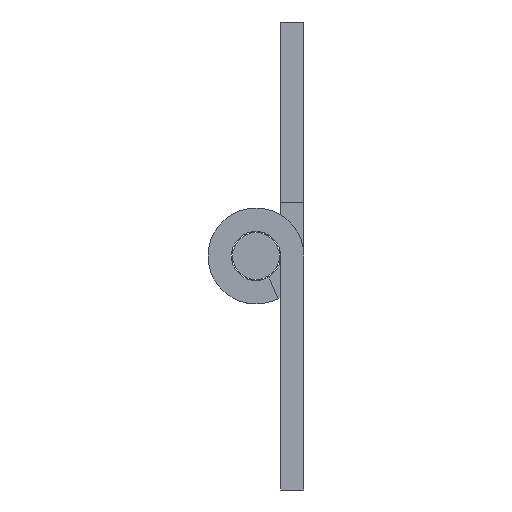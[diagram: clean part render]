
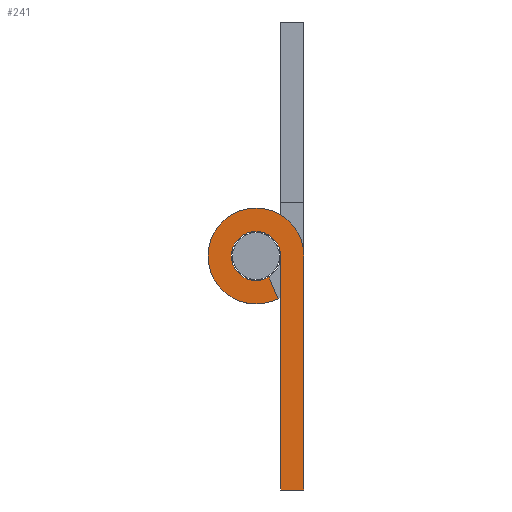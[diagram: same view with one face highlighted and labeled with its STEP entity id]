
A CAD part, left-side view. The second image highlights one B-rep face of the part: STEP entity #241.
In plain terms, the highlighted planar face has unit normal (-1, 0, 0).
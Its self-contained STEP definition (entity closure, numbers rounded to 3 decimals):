
#20 = EDGE_CURVE ( 'NONE', #2705, #1604, #2149, .T. ) ;
#41 = AXIS2_PLACEMENT_3D ( 'NONE', #2084, #2590, #490 ) ;
#103 = AXIS2_PLACEMENT_3D ( 'NONE', #2497, #1303, #1092 ) ;
#177 = DIRECTION ( 'NONE',  ( 0., -0.388, -0.921 ) ) ;
#182 = LINE ( 'NONE', #1297, #206 ) ;
#204 = CIRCLE ( 'NONE', #2934, 6.15 ) ;
#206 = VECTOR ( 'NONE', #2030, 1000. ) ;
#241 = ADVANCED_FACE ( 'NONE', ( #2779 ), #2045, .F. ) ;
#273 = VECTOR ( 'NONE', #177, 1000. ) ;
#303 = CARTESIAN_POINT ( 'NONE',  ( -45., 0., 0. ) ) ;
#307 = DIRECTION ( 'NONE',  ( 0., 0., -1. ) ) ;
#336 = VECTOR ( 'NONE', #2281, 1000. ) ;
#360 = EDGE_CURVE ( 'NONE', #2077, #2192, #1564, .T. ) ;
#436 = DIRECTION ( 'NONE',  ( 0., 0., -1. ) ) ;
#473 = CIRCLE ( 'NONE', #41, 6.15 ) ;
#490 = DIRECTION ( 'NONE',  ( 0., 0., -1. ) ) ;
#497 = ORIENTED_EDGE ( 'NONE', *, *, #20, .F. ) ;
#512 = VERTEX_POINT ( 'NONE', #1281 ) ;
#526 = DIRECTION ( 'NONE',  ( -1., 0., 0. ) ) ;
#549 = EDGE_CURVE ( 'NONE', #2354, #2504, #2627, .T. ) ;
#553 = ORIENTED_EDGE ( 'NONE', *, *, #869, .F. ) ;
#561 = VERTEX_POINT ( 'NONE', #303 ) ;
#564 = EDGE_CURVE ( 'NONE', #512, #570, #2505, .T. ) ;
#567 = AXIS2_PLACEMENT_3D ( 'NONE', #1080, #2002, #2697 ) ;
#570 = VERTEX_POINT ( 'NONE', #2171 ) ;
#585 = AXIS2_PLACEMENT_3D ( 'NONE', #2232, #1727, #1743 ) ;
#638 = EDGE_CURVE ( 'NONE', #1418, #2354, #182, .T. ) ;
#712 = ORIENTED_EDGE ( 'NONE', *, *, #1562, .F. ) ;
#737 = CARTESIAN_POINT ( 'NONE',  ( -45., 3., 0. ) ) ;
#758 = CARTESIAN_POINT ( 'NONE',  ( -45., 6.15, 0. ) ) ;
#869 = EDGE_CURVE ( 'NONE', #2504, #512, #2595, .T. ) ;
#882 = CARTESIAN_POINT ( 'NONE',  ( -45., 4.499, -2.683 ) ) ;
#952 = CARTESIAN_POINT ( 'NONE',  ( -45., 3.018, 0.01 ) ) ;
#1007 = AXIS2_PLACEMENT_3D ( 'NONE', #758, #526, #307 ) ;
#1027 = CARTESIAN_POINT ( 'NONE',  ( -45., 6.15, 0. ) ) ;
#1042 = DIRECTION ( 'NONE',  ( 0., 0.001, 1. ) ) ;
#1080 = CARTESIAN_POINT ( 'NONE',  ( -45., 6.15, 0. ) ) ;
#1084 = CARTESIAN_POINT ( 'NONE',  ( -45., 3., -30. ) ) ;
#1092 = DIRECTION ( 'NONE',  ( 0., 0., -1. ) ) ;
#1140 = ORIENTED_EDGE ( 'NONE', *, *, #1433, .F. ) ;
#1281 = CARTESIAN_POINT ( 'NONE',  ( -45., 3., 0. ) ) ;
#1297 = CARTESIAN_POINT ( 'NONE',  ( -45., 0., -30. ) ) ;
#1303 = DIRECTION ( 'NONE',  ( 1., 0., 0. ) ) ;
#1323 = EDGE_CURVE ( 'NONE', #2192, #561, #473, .T. ) ;
#1336 = LINE ( 'NONE', #2782, #336 ) ;
#1360 = CARTESIAN_POINT ( 'NONE',  ( -45., 3.327, -5.464 ) ) ;
#1368 = ORIENTED_EDGE ( 'NONE', *, *, #2610, .F. ) ;
#1380 = CARTESIAN_POINT ( 'NONE',  ( -45., 6.15, -6.15 ) ) ;
#1418 = VERTEX_POINT ( 'NONE', #2907 ) ;
#1422 = DIRECTION ( 'NONE',  ( 0., -0.879, -0.477 ) ) ;
#1433 = EDGE_CURVE ( 'NONE', #570, #2705, #1751, .T. ) ;
#1530 = ORIENTED_EDGE ( 'NONE', *, *, #638, .F. ) ;
#1562 = EDGE_CURVE ( 'NONE', #561, #1418, #1336, .T. ) ;
#1564 = CIRCLE ( 'NONE', #2642, 6.15 ) ;
#1590 = DIRECTION ( 'NONE',  ( 1., 0., 0. ) ) ;
#1604 = VERTEX_POINT ( 'NONE', #882 ) ;
#1608 = CARTESIAN_POINT ( 'NONE',  ( -45., 6.15, -3.15 ) ) ;
#1677 = EDGE_LOOP ( 'NONE', ( #1368, #2956, #497, #1140, #1861, #553, #1960, #1530, #712, #2966, #2766 ) ) ;
#1719 = VECTOR ( 'NONE', #1042, 1000. ) ;
#1727 = DIRECTION ( 'NONE',  ( -1., 0., 0. ) ) ;
#1743 = DIRECTION ( 'NONE',  ( 0., 0., -1. ) ) ;
#1751 = CIRCLE ( 'NONE', #567, 3.15 ) ;
#1802 = DIRECTION ( 'NONE',  ( 0., 0., -1. ) ) ;
#1861 = ORIENTED_EDGE ( 'NONE', *, *, #564, .F. ) ;
#1960 = ORIENTED_EDGE ( 'NONE', *, *, #549, .F. ) ;
#1962 = CARTESIAN_POINT ( 'NONE',  ( -45., 6.15, 6.15 ) ) ;
#2002 = DIRECTION ( 'NONE',  ( -1., 0., 0. ) ) ;
#2008 = CARTESIAN_POINT ( 'NONE',  ( -45., 3.327, -5.464 ) ) ;
#2020 = CARTESIAN_POINT ( 'NONE',  ( -45., 6.15, 0. ) ) ;
#2030 = DIRECTION ( 'NONE',  ( 0., 1., 0. ) ) ;
#2045 = PLANE ( 'NONE',  #103 ) ;
#2077 = VERTEX_POINT ( 'NONE', #1380 ) ;
#2084 = CARTESIAN_POINT ( 'NONE',  ( -45., 6.15, 0. ) ) ;
#2149 = CIRCLE ( 'NONE', #1007, 3.15 ) ;
#2171 = CARTESIAN_POINT ( 'NONE',  ( -45., 6.15, 3.15 ) ) ;
#2185 = CARTESIAN_POINT ( 'NONE',  ( -45., 3., -30. ) ) ;
#2192 = VERTEX_POINT ( 'NONE', #1962 ) ;
#2229 = LINE ( 'NONE', #2008, #273 ) ;
#2232 = CARTESIAN_POINT ( 'NONE',  ( -45., 6.15, 0. ) ) ;
#2236 = VECTOR ( 'NONE', #1422, 1000. ) ;
#2260 = EDGE_CURVE ( 'NONE', #1604, #2632, #2229, .T. ) ;
#2264 = DIRECTION ( 'NONE',  ( 1., 0., 0. ) ) ;
#2281 = DIRECTION ( 'NONE',  ( 0., 0., -1. ) ) ;
#2354 = VERTEX_POINT ( 'NONE', #1084 ) ;
#2497 = CARTESIAN_POINT ( 'NONE',  ( -45., 6.15, 0. ) ) ;
#2504 = VERTEX_POINT ( 'NONE', #952 ) ;
#2505 = CIRCLE ( 'NONE', #585, 3.15 ) ;
#2590 = DIRECTION ( 'NONE',  ( 1., 0., 0. ) ) ;
#2595 = LINE ( 'NONE', #737, #2236 ) ;
#2610 = EDGE_CURVE ( 'NONE', #2632, #2077, #204, .T. ) ;
#2627 = LINE ( 'NONE', #2185, #1719 ) ;
#2632 = VERTEX_POINT ( 'NONE', #1360 ) ;
#2642 = AXIS2_PLACEMENT_3D ( 'NONE', #2020, #2264, #1802 ) ;
#2697 = DIRECTION ( 'NONE',  ( 0., 0., -1. ) ) ;
#2705 = VERTEX_POINT ( 'NONE', #1608 ) ;
#2766 = ORIENTED_EDGE ( 'NONE', *, *, #360, .F. ) ;
#2779 = FACE_OUTER_BOUND ( 'NONE', #1677, .T. ) ;
#2782 = CARTESIAN_POINT ( 'NONE',  ( -45., 0., 0. ) ) ;
#2907 = CARTESIAN_POINT ( 'NONE',  ( -45., 0., -30. ) ) ;
#2934 = AXIS2_PLACEMENT_3D ( 'NONE', #1027, #1590, #436 ) ;
#2956 = ORIENTED_EDGE ( 'NONE', *, *, #2260, .F. ) ;
#2966 = ORIENTED_EDGE ( 'NONE', *, *, #1323, .F. ) ;
